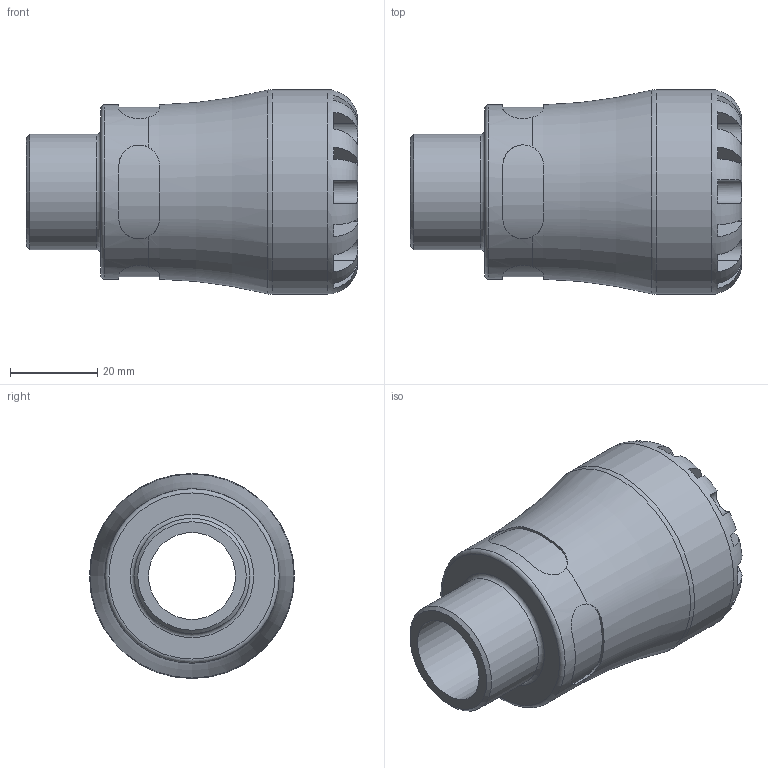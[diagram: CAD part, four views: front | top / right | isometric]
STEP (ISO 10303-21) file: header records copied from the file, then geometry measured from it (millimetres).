
FILE_DESCRIPTION(/* description */ ('PLASSON MALE ADAPTOR 3/4''''IPS x 3/4''''NPT SERIES 1'),/* implementation_level */ '2;1');
FILE_NAME(/* name */ 'C:\Dropbox\KIMPROJECTS-Inventor 2019\99-16-3568-Processing Inch\ASTM S1 2021\1002A\stp\1002A6T007007.stp',/* time_stamp */ '2021-09-02T14:34:23+03:00',/* author */ ('KIM'),/* organization */ (''),/* preprocessor_version */ 'ST-DEVELOPER v17.2',/* originating_system */ 'Autodesk Inventor 2019',/* authorisation */ '');
FILE_SCHEMA (('AUTOMOTIVE_DESIGN { 1 0 10303 214 3 1 1 }'));
Length unit declared in the file: inch
Products named in the file (1): 1002A6T007007
Bounding box: 75.95 x 46.99 x 46.99 mm (x, y, z)
Volume: 58445.7 mm3; surface area: 18032.8 mm2
Topology: 1 solids, 1 shells, 100 faces, 273 edges, 177 vertices
Faces by surface type: plane 60, cylinder 33, torus 5, cone 2
Full cylindrical faces by diameter (mm): 19.95 x1, 26.441 x1, 26.6 x1, 39.941 x1, 46.99 x1
Entity records: 4137 total; most frequent: CARTESIAN_POINT 1519, ORIENTED_EDGE 546, DIRECTION 517, EDGE_CURVE 273, AXIS2_PLACEMENT_3D 215, VERTEX_POINT 177, CIRCLE 114, EDGE_LOOP 104
